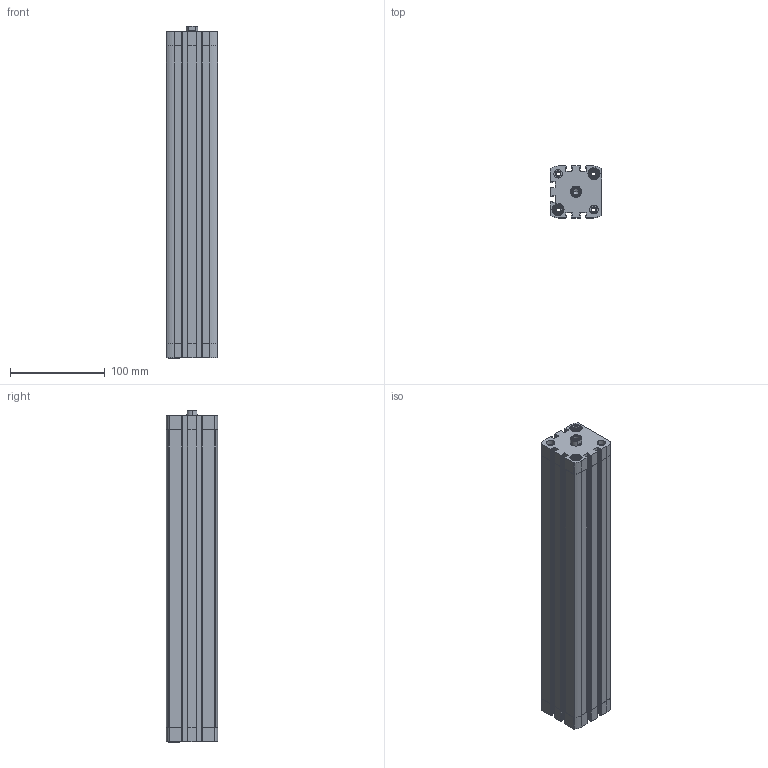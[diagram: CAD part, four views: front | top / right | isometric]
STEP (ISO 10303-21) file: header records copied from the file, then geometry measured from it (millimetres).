
FILE_DESCRIPTION (( 'STEP AP203' ), '1' );
FILE_NAME ('CCN40-300F.STEP', '2017-03-30T11:02:24', ( '' ), ( '' ), 'SwSTEP 2.0', 'SolidWorks 2016', '' );
FILE_SCHEMA (( 'CONFIG_CONTROL_DESIGN' ));
Length unit declared in the file: millimetre
Products named in the file (3): CCN-300---(Z); CCN-300_(KS); CCN40-300F
Assembly tree (2 placements, depth 2):
  CCN40-300F
    CCN-300---(Z)
    CCN-300_(KS)
Bounding box: 54.5 x 54.5 x 351.1 mm (x, y, z)
Volume: 546441.6 mm3; surface area: 189682 mm2
Topology: 2 solids, 2 shells, 479 faces, 1298 edges, 853 vertices
Faces by surface type: plane 267, cylinder 170, cone 42
Entity records: 15589 total; most frequent: CARTESIAN_POINT 2927, DIRECTION 2652, ORIENTED_EDGE 2592, EDGE_CURVE 1296, AXIS2_PLACEMENT_3D 970, VERTEX_POINT 853, LINE 712, VECTOR 712
